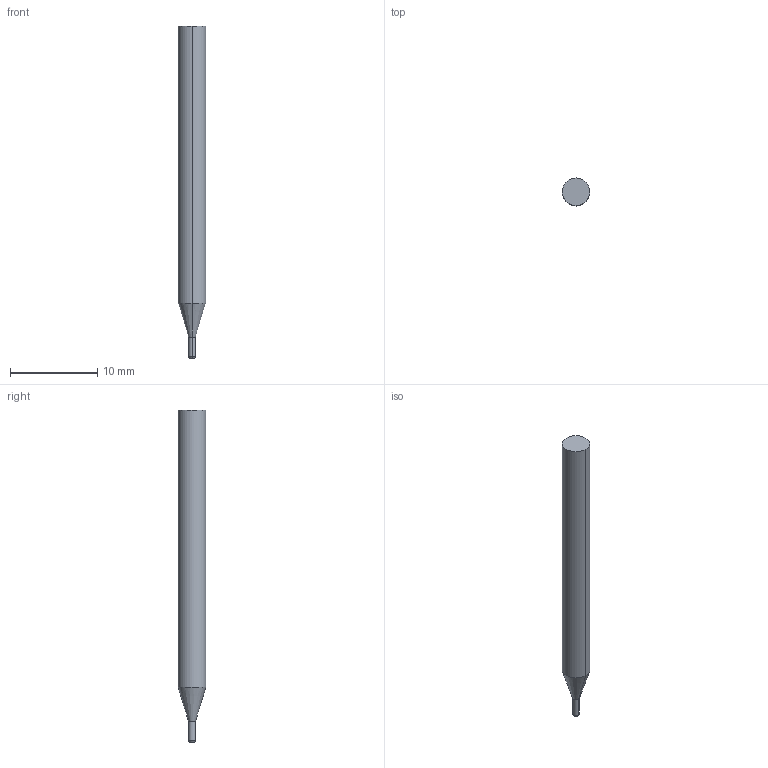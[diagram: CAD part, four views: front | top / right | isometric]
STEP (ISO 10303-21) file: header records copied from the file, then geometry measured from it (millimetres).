
FILE_DESCRIPTION((' '),'2;1');
FILE_NAME( '3MVR0312R.005AH.stp', '2026-01-21T19:05:01', (' '), ('--- Datakit www.datakit.com---'), ' Datakit CrossCadWare V2025.4 Sep 19 2025', 'Mastercam 2027', ' ');
FILE_SCHEMA(('AUTOMOTIVE_DESIGN { 1 0 10303 214 1 1 1 1 }'));
Length unit declared in the file: inch
Products named in the file (1): 3MVR0312R
Bounding box: 3.17 x 3.17 x 38.1 mm (x, y, z)
Volume: 266.6 mm3; surface area: 357 mm2
Topology: 1 solids, 1 shells, 10 faces, 18 edges, 10 vertices
Faces by surface type: cylinder 4, plane 2, torus 2, cone 2
Entity records: 318 total; most frequent: DIRECTION 60, CARTESIAN_POINT 43, ORIENTED_EDGE 36, AXIS2_PLACEMENT_3D 27, EDGE_CURVE 18, CIRCLE 12, VERTEX_POINT 10, EDGE_LOOP 10
